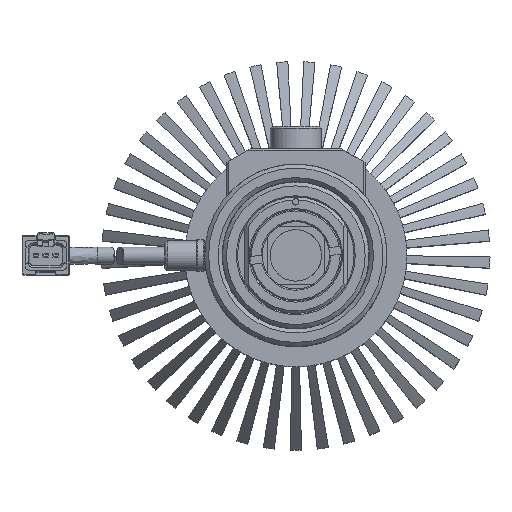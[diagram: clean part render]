
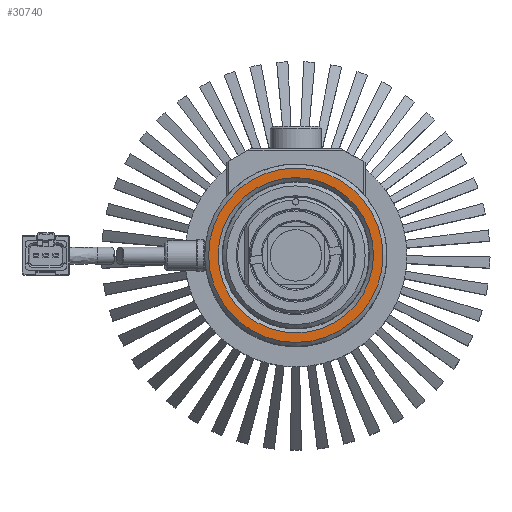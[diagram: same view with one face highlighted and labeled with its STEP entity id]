
A CAD part, top view. The second image highlights one B-rep face of the part: STEP entity #30740.
In plain terms, the highlighted planar face has unit normal (0, 0, 1).
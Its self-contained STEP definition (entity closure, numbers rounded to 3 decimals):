
#103 = DIRECTION ( 'NONE',  ( 1., 0., 0. ) ) ;
#392 = VERTEX_POINT ( 'NONE', #22871 ) ;
#781 = CARTESIAN_POINT ( 'NONE',  ( 0., 23., 118. ) ) ;
#4848 = DIRECTION ( 'NONE',  ( 0., 0., -1. ) ) ;
#4884 = VERTEX_POINT ( 'NONE', #6400 ) ;
#5298 = FACE_BOUND ( 'NONE', #30539, .T. ) ;
#5758 = PLANE ( 'NONE',  #20842 ) ;
#6400 = CARTESIAN_POINT ( 'NONE',  ( 19.6, 0., 118. ) ) ;
#6971 = AXIS2_PLACEMENT_3D ( 'NONE', #19246, #4848, #24029 ) ;
#7410 = CARTESIAN_POINT ( 'NONE',  ( 0., 0., 118. ) ) ;
#9220 = EDGE_LOOP ( 'NONE', ( #20973 ) ) ;
#9662 = CIRCLE ( 'NONE', #6971, 19.6 ) ;
#9967 = DIRECTION ( 'NONE',  ( 0., 0., 1. ) ) ;
#12871 = FACE_OUTER_BOUND ( 'NONE', #9220, .T. ) ;
#13176 = ORIENTED_EDGE ( 'NONE', *, *, #14202, .T. ) ;
#14202 = EDGE_CURVE ( 'NONE', #4884, #4884, #9662, .T. ) ;
#16942 = AXIS2_PLACEMENT_3D ( 'NONE', #7410, #9967, #103 ) ;
#17863 = CIRCLE ( 'NONE', #16942, 22. ) ;
#19246 = CARTESIAN_POINT ( 'NONE',  ( 0., 0., 118. ) ) ;
#20842 = AXIS2_PLACEMENT_3D ( 'NONE', #781, #27035, #24852 ) ;
#20973 = ORIENTED_EDGE ( 'NONE', *, *, #25176, .T. ) ;
#22871 = CARTESIAN_POINT ( 'NONE',  ( 22., 0., 118. ) ) ;
#24029 = DIRECTION ( 'NONE',  ( 1., 0., 0. ) ) ;
#24852 = DIRECTION ( 'NONE',  ( 1., 0., 0. ) ) ;
#25176 = EDGE_CURVE ( 'NONE', #392, #392, #17863, .T. ) ;
#27035 = DIRECTION ( 'NONE',  ( 0., 0., 1. ) ) ;
#30539 = EDGE_LOOP ( 'NONE', ( #13176 ) ) ;
#30740 = ADVANCED_FACE ( 'NONE', ( #5298, #12871 ), #5758, .T. ) ;
